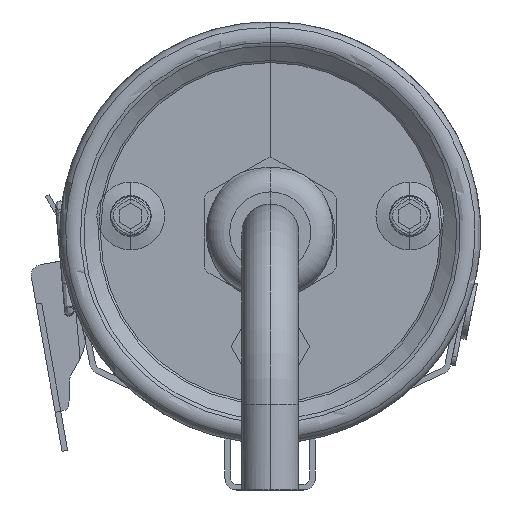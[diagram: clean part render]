
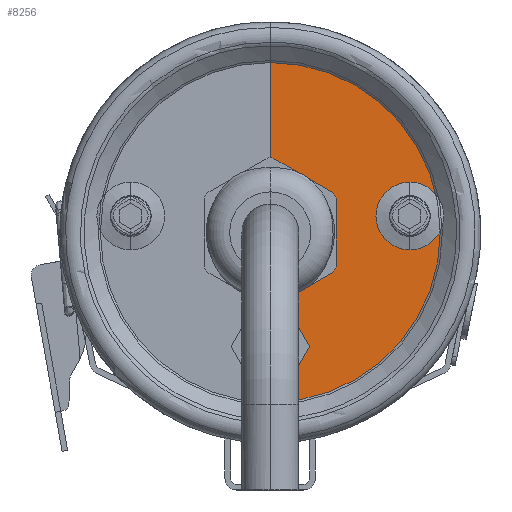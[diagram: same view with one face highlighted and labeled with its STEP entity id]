
A CAD part, front view. The second image highlights one B-rep face of the part: STEP entity #8256.
In plain terms, the highlighted planar face has unit normal (0, -1, 0).
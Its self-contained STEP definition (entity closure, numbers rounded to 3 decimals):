
#598=PLANE('',#9033);
#1060=FACE_OUTER_BOUND('',#1566,.T.);
#1566=EDGE_LOOP('',(#7418,#7419,#7420,#7421));
#2275=LINE('',#16312,#2979);
#2276=LINE('',#16313,#2980);
#2979=VECTOR('',#11179,304.8);
#2980=VECTOR('',#11180,304.8);
#3272=CIRCLE('',#9024,10.045);
#3274=CIRCLE('',#9030,29.96);
#3982=VERTEX_POINT('',#16050);
#3983=VERTEX_POINT('',#16052);
#3992=VERTEX_POINT('',#16304);
#3993=VERTEX_POINT('',#16305);
#5142=EDGE_CURVE('',#3983,#3982,#3272,.T.);
#5155=EDGE_CURVE('',#3992,#3993,#3274,.T.);
#5159=EDGE_CURVE('',#3992,#3982,#2275,.T.);
#5160=EDGE_CURVE('',#3983,#3993,#2276,.T.);
#7418=ORIENTED_EDGE('',*,*,#5142,.T.);
#7419=ORIENTED_EDGE('',*,*,#5159,.F.);
#7420=ORIENTED_EDGE('',*,*,#5155,.T.);
#7421=ORIENTED_EDGE('',*,*,#5160,.F.);
#8256=ADVANCED_FACE('',(#1060),#598,.T.);
#9024=AXIS2_PLACEMENT_3D('',#16053,#11156,#11157);
#9030=AXIS2_PLACEMENT_3D('',#16306,#11169,#11170);
#9033=AXIS2_PLACEMENT_3D('',#16311,#11177,#11178);
#11156=DIRECTION('center_axis',(0.,1.,0.));
#11157=DIRECTION('ref_axis',(0.,0.,1.));
#11169=DIRECTION('center_axis',(0.,-1.,0.));
#11170=DIRECTION('ref_axis',(-0.588,0.,0.809));
#11177=DIRECTION('center_axis',(0.,-1.,0.));
#11178=DIRECTION('ref_axis',(0.,0.,1.));
#11179=DIRECTION('',(0.,0.,1.));
#11180=DIRECTION('',(0.,0.,1.));
#16050=CARTESIAN_POINT('',(0.,-296.974,-10.045));
#16052=CARTESIAN_POINT('',(0.,-296.974,10.045));
#16053=CARTESIAN_POINT('Origin',(0.,-296.974,
0.));
#16304=CARTESIAN_POINT('',(0.,-296.974,-29.96));
#16305=CARTESIAN_POINT('',(0.,-296.974,29.96));
#16306=CARTESIAN_POINT('Origin',(0.,-296.974,
0.));
#16311=CARTESIAN_POINT('Origin',(0.,-296.974,0.));
#16312=CARTESIAN_POINT('',(0.,-296.974,-29.96));
#16313=CARTESIAN_POINT('',(0.,-296.974,10.045));
